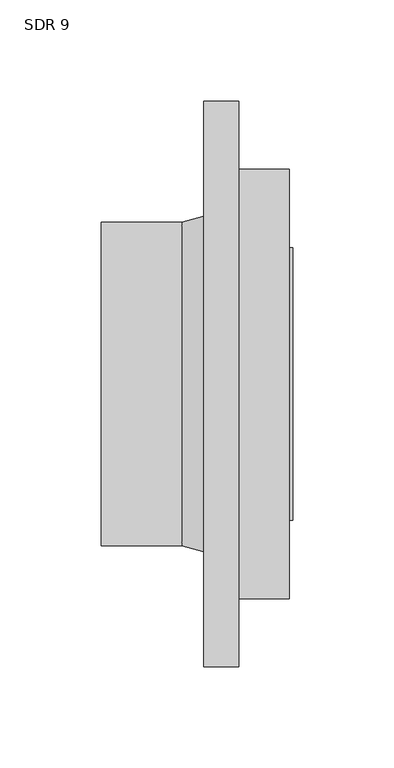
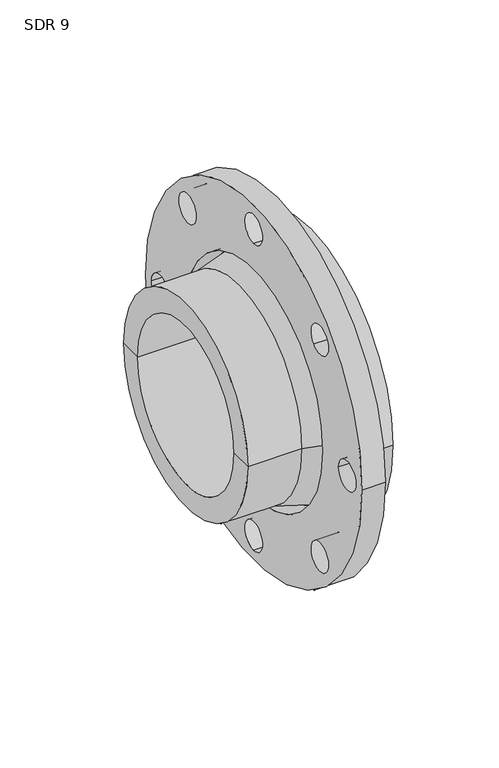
"""IFC4 building model written with IfcOpenShell, lengths in millimetres: valve geometry, Aquatherm - Flange Adapter Butt-Weld : SDR 9."""

from ifc_helpers import new_model, si_unit, point, frame, frame_2d, origin, origin_2d, place, context, project, spatial, polyline, circle_curve, trimmed, segment, composite_curve, outline, extrude, source, transform, mapped, element, save
from ifc_brep_helpers import plane_surface, cylinder_surface, revolved_surface, advanced_brep


def sdr_9_ffab5b74(model_context):
    return source(origin(), model_context, "Body", "SolidModel", [
        extrude(outline(composite_curve([segment(trimmed(circle_curve(origin_2d(), 139.7), [point((-139.7, 0.0))], [point((139.7, 0.0))], False, "CARTESIAN"), True, "CONTINUOUS"), segment(trimmed(circle_curve(origin_2d(), 139.7), [point((139.7, 0.0))], [point((-139.7, 0.0))], False, "CARTESIAN"), True, "CONTINUOUS")], self_intersect=False), holes=[composite_curve([segment(trimmed(circle_curve(origin_2d(), 88.9), [point((-88.9, 0.0))], [point((88.9, 0.0))], True, "CARTESIAN"), True, "CONTINUOUS"), segment(trimmed(circle_curve(origin_2d(), 88.9), [point((88.9, 0.0))], [point((-88.9, 0.0))], True, "CARTESIAN"), True, "CONTINUOUS")], self_intersect=False), composite_curve([segment(trimmed(circle_curve(frame_2d((120.65, 0.0)), 11.176), [point((109.474, 0.0))], [point((131.826, 0.0))], True, "CARTESIAN"), True, "CONTINUOUS"), segment(trimmed(circle_curve(frame_2d((120.65, 0.0)), 11.176), [point((131.826, 0.0))], [point((109.474, 0.0))], True, "CARTESIAN"), True, "CONTINUOUS")], self_intersect=False), composite_curve([segment(trimmed(circle_curve(frame_2d((85.3124332, -85.3124332)), 11.176), [point((77.4098078, -77.4098078))], [point((93.2150585, -93.2150585))], True, "CARTESIAN"), True, "CONTINUOUS"), segment(trimmed(circle_curve(frame_2d((85.3124332, -85.3124332)), 11.176), [point((93.2150585, -93.2150585))], [point((77.4098078, -77.4098078))], True, "CARTESIAN"), True, "CONTINUOUS")], self_intersect=False), composite_curve([segment(trimmed(circle_curve(frame_2d((85.3124332, 85.3124332)), 11.176), [point((77.4098078, 77.4098078))], [point((93.2150585, 93.2150585))], True, "CARTESIAN"), True, "CONTINUOUS"), segment(trimmed(circle_curve(frame_2d((85.3124332, 85.3124332)), 11.176), [point((93.2150585, 93.2150585))], [point((77.4098078, 77.4098078))], True, "CARTESIAN"), True, "CONTINUOUS")], self_intersect=False), composite_curve([segment(trimmed(circle_curve(frame_2d((0.0, 120.65)), 11.176), [point((0.0, 109.474))], [point((0.0, 131.826))], True, "CARTESIAN"), True, "CONTINUOUS"), segment(trimmed(circle_curve(frame_2d((0.0, 120.65)), 11.176), [point((0.0, 131.826))], [point((0.0, 109.474))], True, "CARTESIAN"), True, "CONTINUOUS")], self_intersect=False), composite_curve([segment(trimmed(circle_curve(frame_2d((-85.3124332, 85.3124332)), 11.176), [point((-77.4098078, 77.4098078))], [point((-93.2150585, 93.2150585))], True, "CARTESIAN"), True, "CONTINUOUS"), segment(trimmed(circle_curve(frame_2d((-85.3124332, 85.3124332)), 11.176), [point((-93.2150585, 93.2150585))], [point((-77.4098078, 77.4098078))], True, "CARTESIAN"), True, "CONTINUOUS")], self_intersect=False), composite_curve([segment(trimmed(circle_curve(frame_2d((-120.65, 0.0)), 11.176), [point((-109.474, 0.0))], [point((-131.826, 0.0))], True, "CARTESIAN"), True, "CONTINUOUS"), segment(trimmed(circle_curve(frame_2d((-120.65, 0.0)), 11.176), [point((-131.826, 0.0))], [point((-109.474, 0.0))], True, "CARTESIAN"), True, "CONTINUOUS")], self_intersect=False), composite_curve([segment(trimmed(circle_curve(frame_2d((-85.3124332, -85.3124332)), 11.176), [point((-77.4098078, -77.4098078))], [point((-93.2150585, -93.2150585))], True, "CARTESIAN"), True, "CONTINUOUS"), segment(trimmed(circle_curve(frame_2d((-85.3124332, -85.3124332)), 11.176), [point((-93.2150585, -93.2150585))], [point((-77.4098078, -77.4098078))], True, "CARTESIAN"), True, "CONTINUOUS")], self_intersect=False), composite_curve([segment(trimmed(circle_curve(frame_2d((0.0, -120.65)), 11.176), [point((0.0, -109.474))], [point((0.0, -131.826))], True, "CARTESIAN"), True, "CONTINUOUS"), segment(trimmed(circle_curve(frame_2d((0.0, -120.65)), 11.176), [point((0.0, -131.826))], [point((0.0, -109.474))], True, "CARTESIAN"), True, "CONTINUOUS")], self_intersect=False)]), frame((-17.526, 0.0, 0.0), z_axis=(1.0, 0.0, 0.0), x_axis=(0.0, 1.0, 0.0)), (0.0, 0.0, 1.0), 17.526),
        advanced_brep(
        [(24.892, 106.045, 0.0), (24.892, -106.045, 0.0), (0.0, -106.045, 0.0), (0.0, 106.045, 0.0), (26.4795, 62.23, 0.0), (26.4795, -62.23, 0.0), (26.4795, -67.31, 0.0), (26.4795, 67.31, 0.0), (-68.072, 62.23, 0.0), (-68.072, -62.23, 0.0), (-68.072, 80.01, 0.0), (-68.072, -80.01, 0.0), (-28.194, 80.01, 0.0), (-28.194, -80.01, 0.0), (0.0, -87.503, 0.0), (0.0, 87.503, 0.0), (24.892, 67.31, 0.0), (24.892, -67.31, 0.0)],
        [
            (0, 1, circle_curve(frame((24.892, 0.0, 0.0), z_axis=(-1.0, 0.0, 0.0), x_axis=(0.0, -1.0, 0.0)), 106.045)),
            (1, 2),
            (2, 3, circle_curve(frame((0.0, 0.0, 0.0), z_axis=(1.0, 0.0, 0.0), x_axis=(0.0, -1.0, 0.0)), 106.045)),
            (3, 0),
            (1, 0, circle_curve(frame((24.892, 0.0, 0.0), z_axis=(-1.0, 0.0, 0.0), x_axis=(0.0, -1.0, 0.0)), 106.045)),
            (3, 2, circle_curve(frame((0.0, 0.0, 0.0), z_axis=(1.0, 0.0, 0.0), x_axis=(0.0, -1.0, 0.0)), 106.045)),
            (4, 5, circle_curve(frame((26.4795, 0.0, 0.0), z_axis=(-1.0, 0.0, 0.0), x_axis=(0.0, -1.0, 0.0)), 62.23)),
            (5, 6),
            (6, 7, circle_curve(frame((26.4795, 0.0, 0.0), z_axis=(1.0, 0.0, 0.0), x_axis=(0.0, -1.0, 0.0)), 67.31)),
            (7, 4),
            (5, 4, circle_curve(frame((26.4795, 0.0, 0.0), z_axis=(-1.0, 0.0, 0.0), x_axis=(0.0, -1.0, 0.0)), 62.23)),
            (7, 6, circle_curve(frame((26.4795, 0.0, 0.0), z_axis=(1.0, 0.0, 0.0), x_axis=(0.0, -1.0, 0.0)), 67.31)),
            (8, 9, circle_curve(frame((-68.072, 0.0, 0.0), z_axis=(-1.0, 0.0, 0.0), x_axis=(0.0, -1.0, 0.0)), 62.23)),
            (9, 5),
            (4, 8),
            (9, 8, circle_curve(frame((-68.072, 0.0, 0.0), z_axis=(-1.0, 0.0, 0.0), x_axis=(0.0, -1.0, 0.0)), 62.23)),
            (10, 11, circle_curve(frame((-68.072, 0.0, 0.0), z_axis=(-1.0, 0.0, 0.0), x_axis=(0.0, -1.0, 0.0)), 80.01)),
            (11, 9),
            (8, 10),
            (11, 10, circle_curve(frame((-68.072, 0.0, 0.0), z_axis=(-1.0, 0.0, 0.0), x_axis=(0.0, -1.0, 0.0)), 80.01)),
            (12, 13, circle_curve(frame((-28.194, 0.0, 0.0), z_axis=(-1.0, 0.0, 0.0), x_axis=(0.0, -1.0, 0.0)), 80.01)),
            (13, 11),
            (10, 12),
            (13, 12, circle_curve(frame((-28.194, 0.0, 0.0), z_axis=(-1.0, 0.0, 0.0), x_axis=(0.0, -1.0, 0.0)), 80.01)),
            (2, 14),
            (14, 15, circle_curve(frame((0.0, 0.0, 0.0), z_axis=(1.0, 0.0, 0.0), x_axis=(0.0, -1.0, 0.0)), 87.503)),
            (15, 3),
            (15, 14, circle_curve(frame((0.0, 0.0, 0.0), z_axis=(1.0, 0.0, 0.0), x_axis=(0.0, -1.0, 0.0)), 87.503)),
            (16, 17, circle_curve(frame((24.892, 0.0, 0.0), z_axis=(-1.0, 0.0, 0.0), x_axis=(0.0, -1.0, 0.0)), 67.31)),
            (17, 1),
            (0, 16),
            (17, 16, circle_curve(frame((24.892, 0.0, 0.0), z_axis=(-1.0, 0.0, 0.0), x_axis=(0.0, -1.0, 0.0)), 67.31)),
            (6, 17),
            (16, 7),
            (14, 13),
            (12, 15),
        ],
        [
            cylinder_surface(frame((1465.5309321, 0.0, 0.0), z_axis=(1.0, 0.0, 0.0), x_axis=(0.0, -1.0, 0.0)), 106.045),
            plane_surface(frame((26.4795, 0.0, 0.0), z_axis=(1.0, 0.0, 0.0), x_axis=(0.0, -1.0, 0.0))),
            revolved_surface(polyline([(26.479499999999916, -62.23, 0.0), (-68.07200000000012, -62.23, 0.0)]), (1465.5309321, 0.0, 0.0), (1.0, 0.0, 0.0)),
            plane_surface(frame((-68.072, 0.0, 0.0), z_axis=(-1.0, 0.0, 0.0), x_axis=(0.0, -1.0, 0.0))),
            cylinder_surface(frame((1465.5309321, 0.0, 0.0), z_axis=(1.0, 0.0, 0.0), x_axis=(0.0, -1.0, 0.0)), 80.01),
            plane_surface(frame((0.0, 0.0, 0.0), z_axis=(-1.0, 0.0, 0.0), x_axis=(0.0, -1.0, 0.0))),
            plane_surface(frame((24.892, 0.0, 0.0), z_axis=(1.0, 0.0, 0.0), x_axis=(0.0, -1.0, 0.0))),
            cylinder_surface(frame((1465.5309321, 0.0, 0.0), z_axis=(1.0, 0.0, 0.0), x_axis=(0.0, -1.0, 0.0)), 67.31),
            revolved_surface(polyline([(-28.194, -80.01, 0.0), (0.0, -87.503, 0.0)]), (1465.5309321, 0.0, 0.0), (1.0, 0.0, 0.0)),
        ],
        [
            (0, [[1, 2, 3, 4]]),
            (0, [[5, -4, 6, -2]]),
            (1, [[7, 8, 9, 10]]),
            (1, [[11, -10, 12, -8]]),
            (2, [[13, 14, -7, 15]]),
            (2, [[16, -15, -11, -14]]),
            (3, [[17, 18, -13, 19]]),
            (3, [[20, -19, -16, -18]]),
            (4, [[21, 22, -17, 23]]),
            (4, [[24, -23, -20, -22]]),
            (5, [[-3, 25, 26, 27]]),
            (5, [[-6, -27, 28, -25]]),
            (6, [[29, 30, -1, 31]]),
            (6, [[32, -31, -5, -30]]),
            (7, [[-9, 33, -29, 34]]),
            (7, [[-12, -34, -32, -33]]),
            (8, [[-26, 35, -21, 36]]),
            (8, [[-28, -36, -24, -35]]),
        ],
    ),
    ])


if __name__ == "__main__":
    model = new_model("IFC4")
    model_context = context("Model", 3, world=origin())
    ifc_project = project(units=[si_unit("LENGTHUNIT", "METRE", prefix="MILLI")], contexts=[model_context])
    site = spatial("IfcSite", under=ifc_project)
    building = spatial("IfcBuilding", under=site)
    placement = place(None, origin())
    sdr_9_shape = sdr_9_ffab5b74(model_context)
    element("IfcValve", 1, ObjectType="Aquatherm - Flange Adapter Butt-Weld : SDR 9", at=placement, inside=building, context=model_context, shape_type="MappedRepresentation", body=[
        mapped(sdr_9_shape, transform((0.0, 0.0, 0.0), x_axis=(1.0, 0.0, 0.0), y_axis=(0.0, 1.0, 0.0), z_axis=(0.0, 0.0, 1.0))),
    ])
    save(model, "model.ifc")
